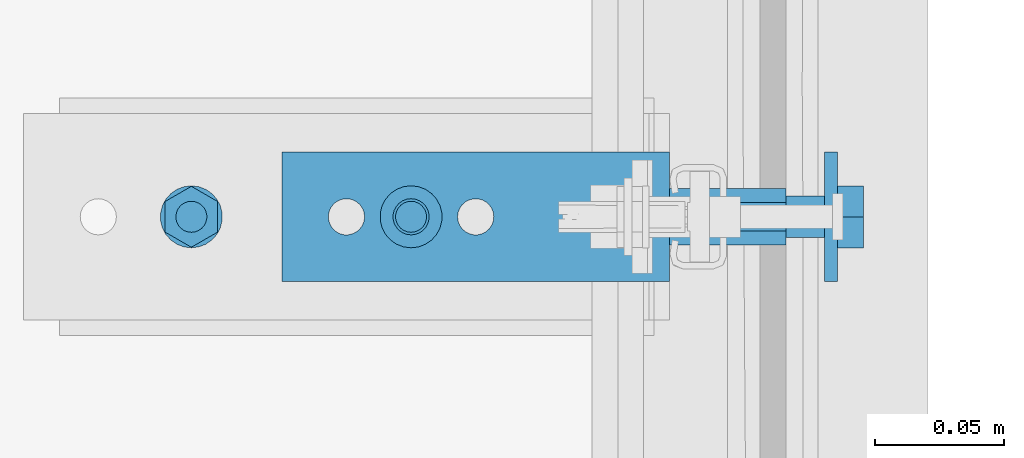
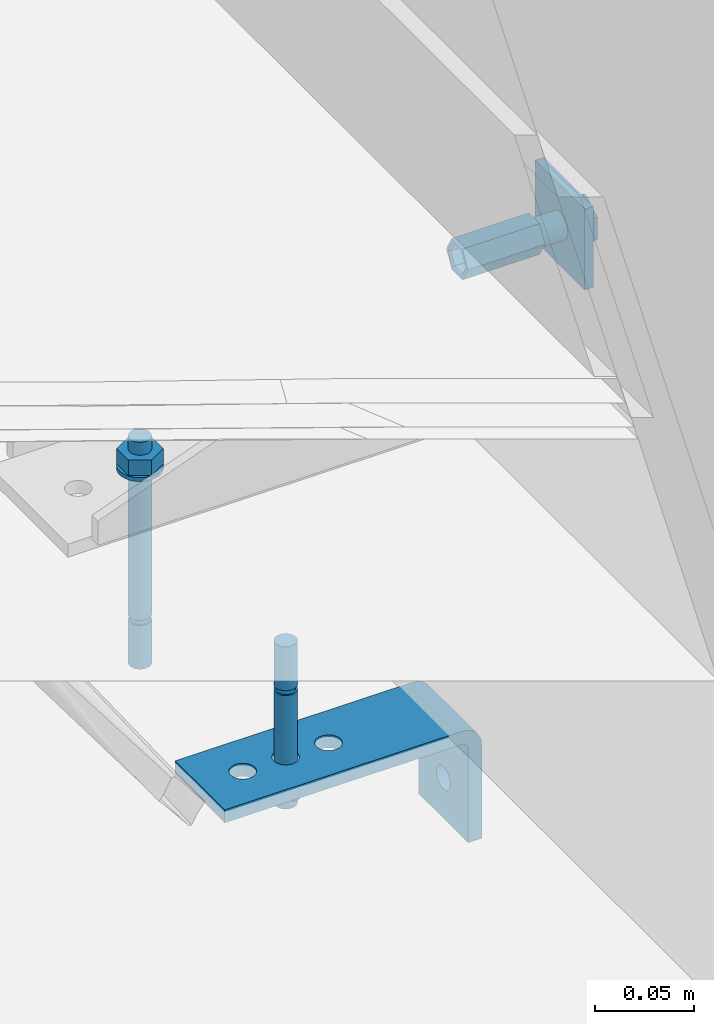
# One storey, part 3 of 17: 4 assemblies, 4 openings.
"""IFC2X3 building model written with IfcOpenShell, lengths in metres."""

from ifc_helpers import new_model, entity, si_unit, converted_unit, derived_unit, direction, frame, frame_2d, origin, place, context, subcontext, project, spatial, polyline, circle_curve, parameter, trimmed, segment, composite_curve, circle, hollow_circle, outline, extrude, faceted_brep, source, transform, mapped, material, type_object, type_shapes, element, save


model = new_model("IFC2X3")

# Units and contexts
model_context = context("Model", 3, precision=1e-05, world=origin(), true_north=direction((6.123031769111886e-17, 1.0)))
plan_context = context("Plan", 3, precision=1e-05, world=origin(), true_north=direction((6.123031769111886e-17, 1.0)))
body_context = subcontext(model_context, "Body", "Model", "MODEL_VIEW")
ifc_project = project(units=[si_unit("LENGTHUNIT", "METRE"), si_unit("AREAUNIT", "SQUARE_METRE"), converted_unit("PLANEANGLEUNIT", "DEGREE", entity("IfcPlaneAngleMeasure", 0.017453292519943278), si_unit("PLANEANGLEUNIT", "RADIAN"), dimensions=[0, 0, 0, 0, 0, 0, 0]), si_unit("VOLUMEUNIT", "CUBIC_METRE"), derived_unit("THERMALTRANSMITTANCEUNIT", [(si_unit("MASSUNIT", "GRAM", prefix="KILO"), 1), (si_unit("THERMODYNAMICTEMPERATUREUNIT", "KELVIN"), -1), (si_unit("TIMEUNIT", "SECOND"), -3)]), derived_unit("USERDEFINED", [(si_unit("MASSUNIT", "GRAM", prefix="KILO"), 1), (si_unit("THERMODYNAMICTEMPERATUREUNIT", "KELVIN"), -1), (si_unit("TIMEUNIT", "SECOND"), -2)]), derived_unit("THERMALRESISTANCEUNIT", [(si_unit("MASSUNIT", "GRAM", prefix="KILO"), -1), (si_unit("TIMEUNIT", "SECOND"), 3), (si_unit("THERMODYNAMICTEMPERATUREUNIT", "KELVIN"), 1)]), si_unit("PRESSUREUNIT", "PASCAL"), derived_unit("MASSDENSITYUNIT", [(si_unit("MASSUNIT", "GRAM", prefix="KILO"), 1), (si_unit("LENGTHUNIT", "METRE"), -3)]), derived_unit("VAPORPERMEABILITYUNIT", [(si_unit("LENGTHUNIT", "METRE"), -1), (si_unit("TIMEUNIT", "SECOND"), 1)]), derived_unit("USERDEFINED", [(si_unit("MASSUNIT", "GRAM", prefix="KILO"), 1), (si_unit("TIMEUNIT", "SECOND"), -3), (si_unit("LENGTHUNIT", "METRE"), 3), (si_unit("ELECTRICCURRENTUNIT", "AMPERE"), -2)])], contexts=[model_context, plan_context])

# Site, building, storey
site_placement = place(None, origin())
site = spatial("IfcSite", under=ifc_project, at=site_placement, Name="Default", CompositionType="ELEMENT")
building_placement = place(site_placement, origin())
building = spatial("IfcBuilding", under=site, at=building_placement, CompositionType="ELEMENT")
storey_placement = place(building_placement, origin())
storey = spatial("IfcBuildingStorey", under=building, at=storey_placement, Name="L0", CompositionType="ELEMENT", Elevation=0.0)

# Assemblies
ifc_material = material(Name="REC_Acero, S 275JR (Zincado)")
type_product_1 = type_object("IfcTypeProduct", Name="REC-HBP M16-75 EV:HBP M16-75 EV", material=ifc_material)
shared_shape_1 = source(origin(), body_context, "Body", "Brep", [
    faceted_brep([(-0.010999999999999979, 0.0, 0.0), (-0.009199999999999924, 0.0, 0.0), (-0.005499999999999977, 0.009526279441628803, 0.0), (-0.005500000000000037, -0.009526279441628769, 0.0), (-0.004600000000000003, -0.007967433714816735, 0.0), (0.004599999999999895, -0.007967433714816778, 0.0), (0.005499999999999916, -0.009526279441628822, 0.0), (0.00919999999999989, 0.0, 0.0), (0.010999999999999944, 0.0, 0.0), (0.0054999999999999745, 0.009526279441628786, 0.0), (0.004599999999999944, 0.00796743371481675, 0.0), (-0.004599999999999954, 0.007967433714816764, 0.0), (0.0039999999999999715, 0.006928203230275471, -0.0008571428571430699), (0.007999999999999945, 0.0, -0.0008571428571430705), (-0.003999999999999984, 0.006928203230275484, -0.0008571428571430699), (-0.007999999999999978, 0.0, -0.0008571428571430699), (-0.004000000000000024, -0.006928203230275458, -0.0008571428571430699), (0.003999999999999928, -0.0069282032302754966, -0.0008571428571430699), (0.003999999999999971, 0.0069282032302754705, -0.04500000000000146), (0.007999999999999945, 0.0, -0.04500000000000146), (-0.003999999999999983, 0.006928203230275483, -0.04500000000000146), (-0.007999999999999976, 0.0, -0.04500000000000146), (-0.004000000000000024, -0.006928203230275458, -0.04500000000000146), (0.003999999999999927, -0.006928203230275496, -0.04500000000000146), (-0.005499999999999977, 0.009526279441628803, -0.04500000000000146), (-0.010999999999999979, 0.0, -0.04500000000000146), (0.0054999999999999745, 0.009526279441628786, -0.04500000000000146), (0.010999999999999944, 0.0, -0.04500000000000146), (0.005499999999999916, -0.009526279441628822, -0.04500000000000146), (-0.005500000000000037, -0.009526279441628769, -0.04500000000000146)], [[[0, 1, 2]], [[1, 0, 3]], [[3, 4, 1]], [[4, 3, 5]], [[6, 5, 3]], [[5, 6, 7]], [[8, 7, 6]], [[7, 8, 9]], [[10, 9, 2]], [[9, 10, 7]], [[11, 2, 1]], [[2, 11, 10]], [[7, 10, 12, 13]], [[10, 11, 14, 12]], [[11, 1, 15, 14]], [[1, 4, 16, 15]], [[4, 5, 17, 16]], [[5, 7, 13, 17]], [[13, 12, 18, 19]], [[12, 14, 20, 18]], [[14, 15, 21, 20]], [[15, 16, 22, 21]], [[16, 17, 23, 22]], [[17, 13, 19, 23]], [[24, 21, 25]], [[21, 24, 20]], [[18, 20, 24]], [[24, 26, 18]], [[19, 18, 26]], [[26, 27, 19]], [[28, 19, 27]], [[19, 28, 23]], [[29, 23, 28]], [[21, 22, 29]], [[23, 29, 22]], [[29, 25, 21]], [[27, 26, 9, 8]], [[26, 24, 2, 9]], [[24, 25, 0, 2]], [[25, 29, 3, 0]], [[29, 28, 6, 3]], [[28, 27, 8, 6]]]),
    faceted_brep([(0.007999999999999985, 0.0, -0.022500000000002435), (0.0077274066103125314, 0.002070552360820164, -0.022500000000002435), (0.006928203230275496, 0.003999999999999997, -0.022500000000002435), (0.005656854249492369, 0.005656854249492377, -0.022500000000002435), (0.0039999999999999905, 0.006928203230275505, -0.022500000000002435), (0.00207055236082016, 0.007727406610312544, -0.022500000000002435), (0.0, 0.008, -0.022500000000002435), (-0.0020705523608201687, 0.0077274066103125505, -0.022500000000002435), (-0.0040000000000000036, 0.006928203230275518, -0.022500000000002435), (-0.005656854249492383, 0.005656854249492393, -0.022500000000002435), (-0.006928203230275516, 0.004000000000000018, -0.022500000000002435), (-0.007727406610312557, 0.0020705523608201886, -0.022500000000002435), (-0.008000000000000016, 0.0, -0.022500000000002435), (-0.007727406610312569, -0.002070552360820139, -0.022500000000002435), (-0.006928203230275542, -0.003999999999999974, -0.022500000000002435), (-0.0056568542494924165, -0.005656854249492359, -0.022500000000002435), (-0.0040000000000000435, -0.006928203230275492, -0.022500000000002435), (-0.002070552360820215, -0.0077274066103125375, -0.022500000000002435), (0.0, -0.008, -0.022500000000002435), (0.0020705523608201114, -0.007727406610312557, -0.022500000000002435), (0.003999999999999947, -0.00692820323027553, -0.022500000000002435), (0.005656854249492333, -0.005656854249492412, -0.022500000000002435), (0.0069282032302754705, -0.004000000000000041, -0.022500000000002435), (0.007727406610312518, -0.002070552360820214, -0.022500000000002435), (0.0, 0.008, -0.060000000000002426), (0.00207055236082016, 0.007727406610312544, -0.060000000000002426), (0.0039999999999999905, 0.006928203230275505, -0.060000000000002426), (0.005656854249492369, 0.005656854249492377, -0.060000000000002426), (0.006928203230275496, 0.003999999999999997, -0.060000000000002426), (0.0077274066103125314, 0.002070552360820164, -0.060000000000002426), (0.007999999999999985, 0.0, -0.060000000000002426), (0.007727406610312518, -0.002070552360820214, -0.060000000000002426), (0.0069282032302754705, -0.004000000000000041, -0.060000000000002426), (0.005656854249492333, -0.005656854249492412, -0.060000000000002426), (0.003999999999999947, -0.00692820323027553, -0.060000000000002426), (0.0020705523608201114, -0.007727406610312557, -0.060000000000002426), (0.0, -0.008, -0.060000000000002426), (-0.002070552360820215, -0.0077274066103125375, -0.060000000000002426), (-0.0040000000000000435, -0.006928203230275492, -0.060000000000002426), (-0.0056568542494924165, -0.005656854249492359, -0.060000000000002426), (-0.006928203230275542, -0.003999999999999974, -0.060000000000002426), (-0.007727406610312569, -0.002070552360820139, -0.060000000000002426), (-0.008000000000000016, 0.0, -0.060000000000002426), (-0.007727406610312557, 0.0020705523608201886, -0.060000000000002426), (-0.006928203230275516, 0.004000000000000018, -0.060000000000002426), (-0.005656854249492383, 0.005656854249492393, -0.060000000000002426), (-0.0040000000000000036, 0.006928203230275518, -0.060000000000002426), (-0.0020705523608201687, 0.0077274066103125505, -0.060000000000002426)], [[[0, 1, 2, 3, 4, 5, 6, 7, 8, 9, 10, 11, 12, 13, 14, 15, 16, 17, 18, 19, 20, 21, 22, 23]], [[24, 25, 26, 27, 28, 29, 30, 31, 32, 33, 34, 35, 36, 37, 38, 39, 40, 41, 42, 43, 44, 45, 46, 47]], [[41, 13, 12, 42]], [[40, 14, 13, 41]], [[16, 15, 39, 38]], [[40, 39, 15, 14]], [[17, 16, 38, 37]], [[18, 17, 37, 36]], [[35, 19, 18, 36]], [[34, 20, 19, 35]], [[22, 21, 33, 32]], [[34, 33, 21, 20]], [[23, 22, 32, 31]], [[0, 23, 31, 30]], [[29, 1, 0, 30]], [[28, 2, 1, 29]], [[4, 3, 27, 26]], [[28, 27, 3, 2]], [[5, 4, 26, 25]], [[6, 5, 25, 24]], [[47, 7, 6, 24]], [[46, 8, 7, 47]], [[10, 9, 45, 44]], [[46, 45, 9, 8]], [[11, 10, 44, 43]], [[12, 11, 43, 42]]]),
    faceted_brep([(0.02499999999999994, 0.025000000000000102, -0.060000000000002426), (-0.024999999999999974, 0.025000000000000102, -0.060000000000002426), (-0.024999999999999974, -0.025000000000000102, -0.060000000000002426), (0.02499999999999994, -0.025000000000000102, -0.060000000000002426), (0.02499999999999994, 0.025000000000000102, -0.06500000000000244), (0.02499999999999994, -0.025000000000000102, -0.06500000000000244), (-0.024999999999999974, -0.025000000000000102, -0.06500000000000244), (-0.024999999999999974, 0.025000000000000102, -0.06500000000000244)], [[[0, 1, 2, 3]], [[4, 5, 6, 7]], [[1, 0, 4, 7]], [[2, 1, 7, 6]], [[3, 2, 6, 5]], [[0, 3, 5, 4]]]),
    faceted_brep([(-0.011999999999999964, 0.00692820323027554, -0.06500000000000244), (-0.011999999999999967, -0.006928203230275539, -0.06500000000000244), (0.0, -0.013856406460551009, -0.06500000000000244), (0.011999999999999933, -0.00692820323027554, -0.06500000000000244), (0.011999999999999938, 0.00692820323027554, -0.06500000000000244), (0.0, 0.01385640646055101, -0.06500000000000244), (-0.011999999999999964, 0.00692820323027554, -0.07500000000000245), (0.0, 0.01385640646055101, -0.07500000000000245), (0.011999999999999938, 0.00692820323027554, -0.07500000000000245), (0.011999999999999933, -0.00692820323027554, -0.07500000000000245), (0.0, -0.013856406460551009, -0.07500000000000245), (-0.011999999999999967, -0.00692820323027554, -0.07500000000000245)], [[[0, 1, 2, 3, 4, 5]], [[6, 7, 8, 9, 10, 11]], [[1, 0, 6, 11]], [[2, 1, 11, 10]], [[3, 2, 10, 9]], [[4, 3, 9, 8]], [[5, 4, 8, 7]], [[0, 5, 7, 6]]]),
])
type_shapes(type_product_1, [shared_shape_1])
assembly_1_placement = place(storey_placement, frame((7.907720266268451, 16.604530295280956, 0.07200000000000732), z_axis=(-1.0, 0.0, 0.0), x_axis=(0.0, -1.0, 0.0)))
element("IfcElementAssembly", 1, at=assembly_1_placement, inside=storey, type_object=type_product_1, material=ifc_material, Name="REC-HBP M16-75 EV:HBP M16-75 EV", ObjectType="REC-HBP M16-75 EV:HBP M16-75 EV", AssemblyPlace="NOTDEFINED", PredefinedType="NOTDEFINED", context=body_context, shape_type="MappedRepresentation", body=[
    mapped(shared_shape_1, transform((0.0, 0.0, 0.0), scale=1.0)),
])
type_product_2 = type_object("IfcTypeProduct", Name="REC-AEM12-140:AEM12-140", material=ifc_material)
shared_shape_2 = source(origin(), body_context, "Body", "SweptSolid", [
    extrude(outline(polyline([(-0.005890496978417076, -0.010202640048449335), (0.005890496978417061, -0.010202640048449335), (0.01178099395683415, 0.0), (0.005890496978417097, 0.010202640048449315), (-0.0058904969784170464, 0.010202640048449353), (-0.011780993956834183, 0.0), (-0.005890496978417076, -0.010202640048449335)]), holes=[composite_curve([segment(trimmed(circle_curve(frame_2d((6.043164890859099e-09, 0.0), x_axis=(1.0, 0.0)), 0.005999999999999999), [parameter(3.053332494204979e-13)], [parameter(180.0)], True, "PARAMETER"), False, "CONTINUOUS"), segment(trimmed(circle_curve(frame_2d((6.043164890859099e-09, 0.0), x_axis=(1.0, 0.0)), 0.005999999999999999), [parameter(179.99999999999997)], [parameter(0.0)], True, "PARAMETER"), False, "CONTINUOUS")], self_intersect=False)]), frame((-6.043164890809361e-09, 0.0, 0.002399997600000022)), (0.0, 0.0, 1.0), 0.009600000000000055),
    extrude(hollow_circle(Radius=0.011999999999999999, WallThickness=0.004999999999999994, at=frame_2d((1.062573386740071e-19, -1.9386534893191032e-17), x_axis=(1.0, 0.0))), origin(), (0.0, 0.0, 1.0), 0.002399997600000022),
    extrude(circle(Radius=0.006, at=frame_2d((1.3218592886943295e-19, -9.69326744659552e-18), x_axis=(1.0, 0.0))), frame((0.0, 0.0, -0.09)), (0.0, 0.0, 1.0), 0.11),
    extrude(circle(Radius=0.006, at=frame_2d((1.3218592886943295e-19, -9.69326744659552e-18), x_axis=(1.0, 0.0))), frame((0.0, 0.0, -0.12)), (0.0, 0.0, 1.0), 0.026999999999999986),
    extrude(circle(Radius=0.005, at=frame_2d((1.3218592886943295e-19, -8.077722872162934e-18), x_axis=(1.0, 0.0))), frame((0.0, 0.0, -0.09300000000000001)), (0.0, 0.0, 1.0), 0.0030000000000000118),
])
type_shapes(type_product_2, [shared_shape_2])
assembly_2_placement = place(storey_placement, frame((7.722720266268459, 16.60453029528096, 0.00799999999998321), z_axis=(0.0, 0.0, 1.0), x_axis=(0.0, -1.0, 0.0)))
element("IfcElementAssembly", 2, at=assembly_2_placement, inside=storey, type_object=type_product_2, material=ifc_material, Name="REC-AEM12-140:AEM12-140", ObjectType="REC-AEM12-140:AEM12-140", AssemblyPlace="NOTDEFINED", PredefinedType="NOTDEFINED", context=body_context, shape_type="MappedRepresentation", body=[
    mapped(shared_shape_2, transform((0.0, 0.0, 0.0), scale=1.0)),
])
type_product_3 = type_object("IfcTypeProduct", Name="REC-AEM12-100:AEM12-100", material=ifc_material)
shared_shape_3 = source(origin(), body_context, "Body", "SweptSolid", [
    extrude(outline(polyline([(-0.005890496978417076, -0.010202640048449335), (0.005890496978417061, -0.010202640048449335), (0.01178099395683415, 0.0), (0.005890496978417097, 0.010202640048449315), (-0.0058904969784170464, 0.010202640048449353), (-0.011780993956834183, 0.0), (-0.005890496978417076, -0.010202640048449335)]), holes=[composite_curve([segment(trimmed(circle_curve(frame_2d((6.043164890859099e-09, 0.0), x_axis=(1.0, 0.0)), 0.005999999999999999), [parameter(3.053332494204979e-13)], [parameter(180.0)], True, "PARAMETER"), False, "CONTINUOUS"), segment(trimmed(circle_curve(frame_2d((6.043164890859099e-09, 0.0), x_axis=(1.0, 0.0)), 0.005999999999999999), [parameter(179.99999999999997)], [parameter(0.0)], True, "PARAMETER"), False, "CONTINUOUS")], self_intersect=False)]), frame((-6.043164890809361e-09, 0.0, 0.002399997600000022)), (0.0, 0.0, 1.0), 0.009600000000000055),
    extrude(hollow_circle(Radius=0.011999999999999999, WallThickness=0.004999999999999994, at=frame_2d((1.062573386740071e-19, -1.9386534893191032e-17), x_axis=(1.0, 0.0))), origin(), (0.0, 0.0, 1.0), 0.002399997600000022),
    extrude(circle(Radius=0.006, at=frame_2d((1.3218592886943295e-19, -9.69326744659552e-18), x_axis=(1.0, 0.0))), frame((0.0, 0.0, -0.05)), (0.0, 0.0, 1.0), 0.07),
    extrude(circle(Radius=0.006, at=frame_2d((1.3218592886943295e-19, -9.69326744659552e-18), x_axis=(1.0, 0.0))), frame((0.0, 0.0, -0.08)), (0.0, 0.0, 1.0), 0.027000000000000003),
    extrude(circle(Radius=0.005, at=frame_2d((1.3218592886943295e-19, -8.077722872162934e-18), x_axis=(1.0, 0.0))), frame((0.0, 0.0, -0.053)), (0.0, 0.0, 1.0), 0.002999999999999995),
])
type_shapes(type_product_3, [shared_shape_3])
assembly_3_placement = place(storey_placement, frame((7.807720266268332, 16.60453029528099, -0.2079999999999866), z_axis=(0.0, 0.0, -1.0), x_axis=(0.0, 1.0, 0.0)))
element("IfcElementAssembly", 3, at=assembly_3_placement, inside=storey, type_object=type_product_3, material=ifc_material, Name="REC-AEM12-100:AEM12-100", ObjectType="REC-AEM12-100:AEM12-100", AssemblyPlace="NOTDEFINED", PredefinedType="NOTDEFINED", context=body_context, shape_type="MappedRepresentation", body=[
    mapped(shared_shape_3, transform((0.0, 0.0, 0.0), scale=1.0)),
])

# Assembly, openings
type_product_4 = type_object("IfcTypeProduct", Name="REC-PAA150708T14:PAA150708T14", material=ifc_material)
shared_shape_4 = source(origin(), body_context, "Body", "SweptSolid", [
    extrude(outline(composite_curve([segment(polyline([(-0.03449999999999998, -0.010499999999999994), (-0.03449999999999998, 0.04750000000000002)]), True, "CONTINUOUS"), segment(polyline([(-0.03449999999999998, 0.04750000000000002), (-0.04249999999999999, 0.04750000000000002)]), True, "CONTINUOUS"), segment(polyline([(-0.04249999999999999, 0.04750000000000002), (-0.042499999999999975, -0.01050000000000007)]), True, "CONTINUOUS"), segment(trimmed(circle_curve(frame_2d((-0.03049999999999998, -0.010499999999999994), x_axis=(1.0, 0.0)), 0.012), [parameter(180.00000000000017)], [parameter(269.99999999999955)], True, "PARAMETER"), True, "CONTINUOUS"), segment(polyline([(-0.03049999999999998, -0.022499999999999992), (0.10750000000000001, -0.022499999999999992)]), True, "CONTINUOUS"), segment(polyline([(0.10750000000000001, -0.022499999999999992), (0.10750000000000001, -0.01449999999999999)]), True, "CONTINUOUS"), segment(polyline([(0.10750000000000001, -0.01449999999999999), (-0.030500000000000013, -0.014499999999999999)]), True, "CONTINUOUS"), segment(trimmed(circle_curve(frame_2d((-0.03049999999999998, -0.010499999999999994), x_axis=(1.0, 0.0)), 0.004), [parameter(180.00000000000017)], [parameter(269.9999999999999)], True, "PARAMETER"), False, "CONTINUOUS")], self_intersect=False)), frame((-0.024999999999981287, 0.0225, 0.042499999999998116), z_axis=(-1.0, 0.0, 0.0), x_axis=(0.0, 0.0, 1.0)), (0.0, 0.0, -1.0), 0.04999999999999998),
])
type_shapes(type_product_4, [shared_shape_4])
assembly_4_placement = place(storey_placement, frame((7.907720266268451, 16.604530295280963, -0.19999999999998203), z_axis=(-1.0, 0.0, 0.0), x_axis=(0.0, 1.0, 0.0)))
assembly_4 = element("IfcElementAssembly", 4, at=assembly_4_placement, inside=storey, type_object=type_product_4, material=ifc_material, Name="REC-PAA150708T14:PAA150708T14", ObjectType="REC-PAA150708T14:PAA150708T14", AssemblyPlace="NOTDEFINED", PredefinedType="NOTDEFINED", context=body_context, shape_type="MappedRepresentation", body=[
    mapped(shared_shape_4, transform((0.0, 0.0, 0.0), scale=1.0)),
])
opening_1_placement = place(storey_placement, frame((7.907720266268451, 16.604530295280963, -0.19999999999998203), z_axis=(0.0, -1.0, 0.0), x_axis=(0.0, 0.0, -1.0)))
element("IfcOpeningElement", 5, at=opening_1_placement, cuts=assembly_4, Name="REC-PAA150708T14:PAA150708T14:1", ObjectType="Opening", context=body_context, shape_type="SweptSolid", body=[
    extrude(circle(Radius=0.007, at=frame_2d((0.0, -1.752606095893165e-17), x_axis=(1.0, 0.0))), frame((0.045000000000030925, -0.00799999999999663, 0.0), z_axis=(0.0, 1.0, 0.0), x_axis=(-1.0, 0.0, 0.0)), (0.0, 0.0, 1.0), 0.008000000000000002),
])
opening_2_placement = place(storey_placement, frame((7.907720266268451, 16.604530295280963, -0.19999999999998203), z_axis=(0.0, -1.0, 0.0), x_axis=(0.0, 0.0, -1.0)))
element("IfcOpeningElement", 6, at=opening_2_placement, cuts=assembly_4, Name="REC-PAA150708T14:PAA150708T14:2", ObjectType="Opening", context=body_context, shape_type="SweptSolid", body=[
    extrude(circle(Radius=0.007, at=frame_2d((6.283419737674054e-33, 3.537250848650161e-18), x_axis=(1.0, 0.0))), frame((0.0, -0.12499999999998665, 0.0), z_axis=(1.0, 0.0, 0.0), x_axis=(0.0, 1.0, 0.0)), (0.0, 0.0, 1.0), 0.007999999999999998),
])
opening_3_placement = place(storey_placement, frame((7.907720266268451, 16.604530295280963, -0.19999999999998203), z_axis=(0.0, -1.0, 0.0), x_axis=(0.0, 0.0, -1.0)))
element("IfcOpeningElement", 7, at=opening_3_placement, cuts=assembly_4, Name="REC-PAA150708T14:PAA150708T14:3", ObjectType="Opening", context=body_context, shape_type="SweptSolid", body=[
    extrude(circle(Radius=0.007, at=frame_2d((6.283419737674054e-33, 3.537250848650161e-18), x_axis=(1.0, 0.0))), frame((0.0, -0.09999999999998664, 0.0), z_axis=(1.0, 0.0, 0.0), x_axis=(0.0, 1.0, 0.0)), (0.0, 0.0, 1.0), 0.007999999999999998),
])
opening_4_placement = place(storey_placement, frame((7.907720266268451, 16.604530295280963, -0.19999999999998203), z_axis=(0.0, -1.0, 0.0), x_axis=(0.0, 0.0, -1.0)))
element("IfcOpeningElement", 8, at=opening_4_placement, cuts=assembly_4, Name="REC-PAA150708T14:PAA150708T14:4", ObjectType="Opening", context=body_context, shape_type="SweptSolid", body=[
    extrude(circle(Radius=0.007, at=frame_2d((8.4598994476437e-18, 3.537250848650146e-18), x_axis=(1.0, 0.0))), frame((0.0, -0.07499999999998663, 0.0), z_axis=(1.0, 0.0, 0.0), x_axis=(0.0, 1.0, 0.0)), (0.0, 0.0, 1.0), 0.007999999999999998),
])

save(model, "model.ifc")
